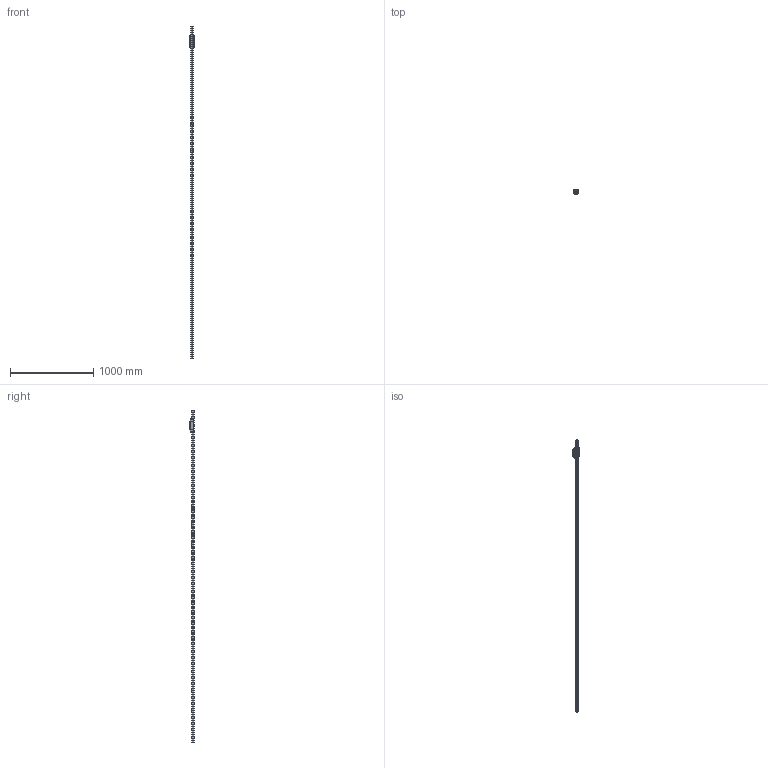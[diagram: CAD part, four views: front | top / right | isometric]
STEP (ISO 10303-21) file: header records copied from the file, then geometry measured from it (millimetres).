
FILE_DESCRIPTION((''),'2;1');
FILE_NAME('BRS35-LR_CUSTOMER_ASM_ASM','2020-11-24T15:23:32',('TWVS2025'),(''),'CREO PARAMETRIC BY PTC INC, 2018420','CREO PARAMETRIC BY PTC INC, 2018420','');
FILE_SCHEMA(('CONFIG_CONTROL_DESIGN'));
Products named in the file (77): BC-BRC35-LR_ASM_1_1; BC-BRC35-LR_ASM_1_2; BC-BRC35-LR_ASM_1_3; BC-BRC35-LR_ASM_1_4; BC-BRC35-LR_ASM_1_5; BC-BRC35-LR_ASM_1_6; BC-BRC35-LR_ASM_1_7; BC-BRC35-LR_ASM_1_8; BC-BRC35-LR_ASM_1_9; BC-BRC35-LR_ASM_1_10; BC-BRC35-LR_ASM_1_11; BC-BRC35-LR_ASM_1_12; BC-BRC35-LR_ASM_1_13; BC-BRC35-LR_ASM_1_14; BC-BRC35-LR_ASM_1_15; BC-BRC35-LR_ASM_1_16; BC-BRC35-LR_ASM_1_17; BC-BRC35-LR_ASM_1_18; BC-BRC35-LR_ASM_1_19; BC-BRC35-LR_ASM_1_20; BC-BRC35-LR_ASM_1_21; BC-BRC35-LR_ASM_1_22; BC-BRC35-LR_ASM_1_23; BC-BRC35-LR_ASM_1_24; BC-BRC35-LR_ASM_1_25; BC-BRC35-LR_ASM_1_26; BC-BRC35-LR_ASM_1_27; BC-BRC35-LR_ASM_1_28; BC-BRC35-LR_ASM_1_29; BC-BRC35-LR_ASM_1_30; BC-BRC35-LR_ASM_1_31; BC-BRC35-LR_ASM_1_32; BC-BRC35-LR_ASM_1_33; BC-BRC35-LR_ASM_1_34; BC-BRC35-LR_ASM_1_35; BC-BRC35-LR_ASM_1_36; BC-BRC35-LR_ASM_1_37; BC-BRC35-LR_ASM_1_38; BC-BRC35-LR_ASM_1_39; BC-BRC35-LR_ASM_1_40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
Assembly tree (76 placements, depth 4):
  BRS35-LR_CUSTOMER_ASM_ASM
    BRS35-LR_CUSTOMER_ASM_1_ASM
      BC-BRC35-LR_ASM_1_ASM
        BC-BRC35-LR_ASM_1_1
        BC-BRC35-LR_ASM_1_2
        BC-BRC35-LR_ASM_1_3
        BC-BRC35-LR_ASM_1_4
        BC-BRC35-LR_ASM_1_5
        BC-BRC35-LR_ASM_1_6
        BC-BRC35-LR_ASM_1_7
        BC-BRC35-LR_ASM_1_8
        BC-BRC35-LR_ASM_1_9
        BC-BRC35-LR_ASM_1_10
        BC-BRC35-LR_ASM_1_11
        BC-BRC35-LR_ASM_1_12
        BC-BRC35-LR_ASM_1_13
        BC-BRC35-LR_ASM_1_14
        BC-BRC35-LR_ASM_1_15
        BC-BRC35-LR_ASM_1_16
        BC-BRC35-LR_ASM_1_17
        BC-BRC35-LR_ASM_1_18
        BC-BRC35-LR_ASM_1_19
        BC-BRC35-LR_ASM_1_20
        BC-BRC35-LR_ASM_1_21
        BC-BRC35-LR_ASM_1_22
        BC-BRC35-LR_ASM_1_23
        BC-BRC35-LR_ASM_1_24
        BC-BRC35-LR_ASM_1_25
        BC-BRC35-LR_ASM_1_26
        BC-BRC35-LR_ASM_1_27
        BC-BRC35-LR_ASM_1_28
        BC-BRC35-LR_ASM_1_29
        BC-BRC35-LR_ASM_1_30
        BC-BRC35-LR_ASM_1_31
        BC-BRC35-LR_ASM_1_32
        BC-BRC35-LR_ASM_1_33
        BC-BRC35-LR_ASM_1_34
        BC-BRC35-LR_ASM_1_35
        BC-BRC35-LR_ASM_1_36
        BC-BRC35-LR_ASM_1_37
        BC-BRC35-LR_ASM_1_38
        BC-BRC35-LR_ASM_1_39
        BC-BRC35-LR_ASM_1_40
        BC-BRC35-LR_ASM_1_41
        BC-BRC35-LR_ASM_1_42
        BC-BRC35-LR_ASM_1_43
        BC-BRC35-LR_ASM_1_44
        BC-BRC35-LR_ASM_1_45
        BC-BRC35-LR_ASM_1_46
        BC-BRC35-LR_ASM_1_47
        BC-BRC35-LR_ASM_1_48
        BC-BRC35-LR_ASM_1_49
        BC-BRC35-LR_ASM_1_50
        BC-BRC35-LR_ASM_1_51
        BC-BRC35-LR_ASM_1_52
        BC-BRC35-LR_ASM_1_53
        BC-BRC35-LR_ASM_1_54
        BC-BRC35-LR_ASM_1_55
        BC-BRC35-LR_ASM_1_56
        BC-BRC35-LR_ASM_1_57
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Bounding box: 69.95 x 55 x 4000 mm (x, y, z)
Volume: 3662408.8 mm3; surface area: 659476.6 mm2
Topology: 74 solids, 91 shells, 1926 faces, 5750 edges, 3742 vertices
Faces by surface type: plane 789, cylinder 684, sphere 237, bspline 124, cone 52, torus 40
Entity records: 88494 total; most frequent: CARTESIAN_POINT 36793, ORIENTED_EDGE 10820, DIRECTION 10372, EDGE_CURVE 5410, AXIS2_PLACEMENT_3D 3952, VERTEX_POINT 3742, VECTOR 2468, LINE 2468
